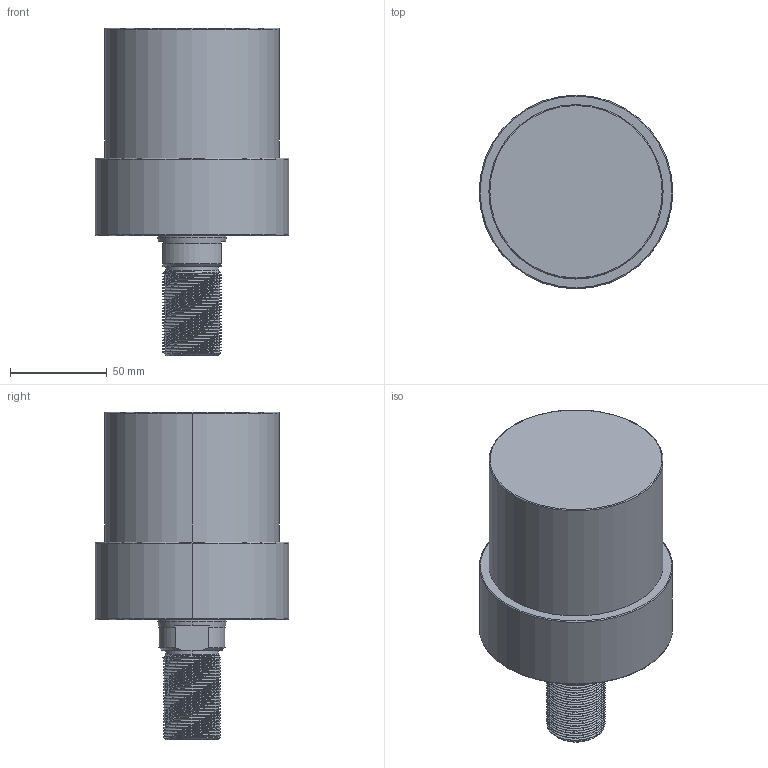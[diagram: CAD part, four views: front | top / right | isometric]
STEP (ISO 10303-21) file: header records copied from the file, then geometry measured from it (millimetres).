
FILE_DESCRIPTION (( 'STEP AP203' ), '1' );
FILE_NAME ('CLLU-090GT-045.STEP', '2020-01-13T02:39:25', ( '' ), ( '' ), 'SwSTEP 2.0', 'SolidWorks 2015', '' );
FILE_SCHEMA (( 'CONFIG_CONTROL_DESIGN' ));
Length unit declared in the file: millimetre
Products named in the file (1): CLLU-090GT-045
Bounding box: 100 x 100 x 169 mm (x, y, z)
Volume: 778910.4 mm3; surface area: 58779.9 mm2
Topology: 1 solids, 1 shells, 123 faces, 321 edges, 201 vertices
Faces by surface type: cylinder 78, cone 26, plane 11, torus 6, bspline 2
Entity records: 7136 total; most frequent: CARTESIAN_POINT 4401, ORIENTED_EDGE 626, DIRECTION 501, EDGE_CURVE 313, VERTEX_POINT 201, AXIS2_PLACEMENT_3D 197, EDGE_LOOP 132, FACE_OUTER_BOUND 123
